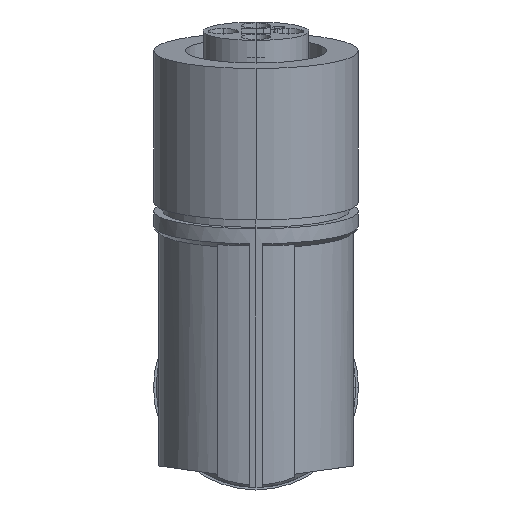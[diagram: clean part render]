
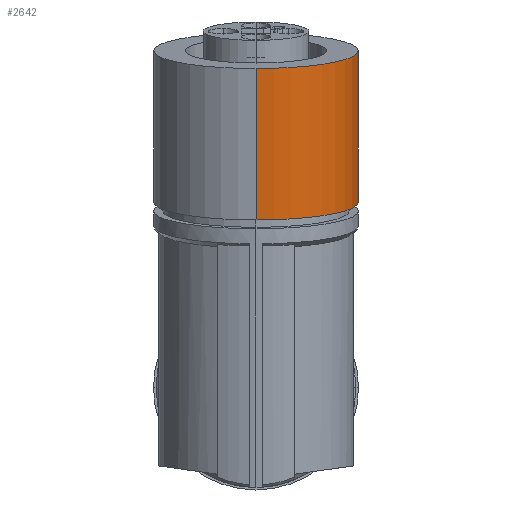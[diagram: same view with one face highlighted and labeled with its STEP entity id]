
A CAD part, front view. The second image highlights one B-rep face of the part: STEP entity #2642.
In plain terms, the highlighted cylindrical face has radius 8 mm (diameter 16 mm), a partial arc.
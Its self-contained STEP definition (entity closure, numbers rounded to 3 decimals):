
#19 = CARTESIAN_POINT ( 'NONE',  ( 0., -29.494, 27.674 ) ) ;
#44 = CARTESIAN_POINT ( 'NONE',  ( 0., -37.372, 26.285 ) ) ;
#50 = CARTESIAN_POINT ( 'NONE',  ( 0., -45.251, 24.895 ) ) ;
#140 = CARTESIAN_POINT ( 'NONE',  ( 0., -37.372, 26.285 ) ) ;
#241 = AXIS2_PLACEMENT_3D ( 'NONE', #44, #2343, #568 ) ;
#252 = ORIENTED_EDGE ( 'NONE', *, *, #2530, .T. ) ;
#286 = CARTESIAN_POINT ( 'NONE',  ( 0., -27.41, 15.856 ) ) ;
#568 = DIRECTION ( 'NONE',  ( 0., -0.985, -0.174 ) ) ;
#687 = DIRECTION ( 'NONE',  ( 0., -0.985, -0.174 ) ) ;
#736 = CARTESIAN_POINT ( 'NONE',  ( 0., -29.494, 27.674 ) ) ;
#811 = AXIS2_PLACEMENT_3D ( 'NONE', #140, #2200, #881 ) ;
#881 = DIRECTION ( 'NONE',  ( 0., -0.985, -0.174 ) ) ;
#962 = LINE ( 'NONE', #50, #1342 ) ;
#1052 = ORIENTED_EDGE ( 'NONE', *, *, #1054, .F. ) ;
#1054 = EDGE_CURVE ( 'NONE', #1358, #2879, #962, .T. ) ;
#1281 = ORIENTED_EDGE ( 'NONE', *, *, #2171, .T. ) ;
#1342 = VECTOR ( 'NONE', #3026, 1000. ) ;
#1351 = AXIS2_PLACEMENT_3D ( 'NONE', #1957, #2926, #687 ) ;
#1358 = VERTEX_POINT ( 'NONE', #3235 ) ;
#1388 = EDGE_LOOP ( 'NONE', ( #1281, #252, #3185, #1052 ) ) ;
#1409 = VERTEX_POINT ( 'NONE', #19 ) ;
#1462 = VECTOR ( 'NONE', #1968, 1000. ) ;
#1602 = CYLINDRICAL_SURFACE ( 'NONE', #241, 8. ) ;
#1699 = CARTESIAN_POINT ( 'NONE',  ( 0., -45.251, 24.895 ) ) ;
#1835 = CIRCLE ( 'NONE', #1351, 8. ) ;
#1957 = CARTESIAN_POINT ( 'NONE',  ( 0., -35.288, 14.467 ) ) ;
#1968 = DIRECTION ( 'NONE',  ( 0., -0.174, 0.985 ) ) ;
#2171 = EDGE_CURVE ( 'NONE', #1358, #3042, #1835, .T. ) ;
#2200 = DIRECTION ( 'NONE',  ( 0., 0.174, -0.985 ) ) ;
#2251 = CIRCLE ( 'NONE', #811, 8. ) ;
#2343 = DIRECTION ( 'NONE',  ( 0., -0.174, 0.985 ) ) ;
#2374 = FACE_OUTER_BOUND ( 'NONE', #1388, .T. ) ;
#2530 = EDGE_CURVE ( 'NONE', #3042, #1409, #3014, .T. ) ;
#2642 = ADVANCED_FACE ( 'NONE', ( #2374 ), #1602, .T. ) ;
#2749 = EDGE_CURVE ( 'NONE', #1409, #2879, #2251, .T. ) ;
#2879 = VERTEX_POINT ( 'NONE', #1699 ) ;
#2926 = DIRECTION ( 'NONE',  ( 0., -0.174, 0.985 ) ) ;
#3014 = LINE ( 'NONE', #736, #1462 ) ;
#3026 = DIRECTION ( 'NONE',  ( 0., -0.174, 0.985 ) ) ;
#3042 = VERTEX_POINT ( 'NONE', #286 ) ;
#3185 = ORIENTED_EDGE ( 'NONE', *, *, #2749, .T. ) ;
#3235 = CARTESIAN_POINT ( 'NONE',  ( 0., -43.167, 13.078 ) ) ;
